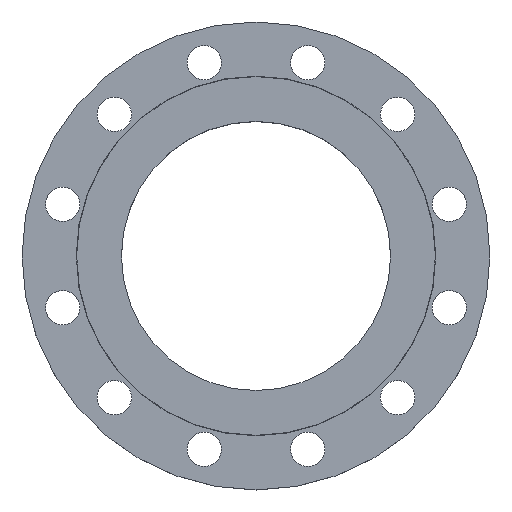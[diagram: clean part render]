
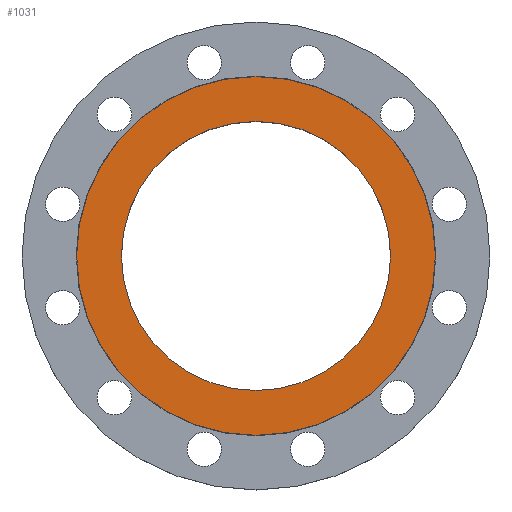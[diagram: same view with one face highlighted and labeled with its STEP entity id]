
A CAD part, top view. The second image highlights one B-rep face of the part: STEP entity #1031.
In plain terms, the highlighted planar face has unit normal (0, 0, 1).
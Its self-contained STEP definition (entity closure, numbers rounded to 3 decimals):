
#73 = CARTESIAN_POINT ( 'NONE',  ( 172.5, 0., 0. ) ) ;
#91 = CARTESIAN_POINT ( 'NONE',  ( -172.5, 0., 0. ) ) ;
#255 = DIRECTION ( 'NONE',  ( 0., 0., -1. ) ) ;
#257 = CARTESIAN_POINT ( 'NONE',  ( 0., 0., 0. ) ) ;
#279 = CIRCLE ( 'NONE', #306, 129.4 ) ;
#282 = CIRCLE ( 'NONE', #298, 172.5 ) ;
#298 = AXIS2_PLACEMENT_3D ( 'NONE', #535, #533, #530 ) ;
#306 = AXIS2_PLACEMENT_3D ( 'NONE', #361, #360, #359 ) ;
#359 = DIRECTION ( 'NONE',  ( -1., 0., 0. ) ) ;
#360 = DIRECTION ( 'NONE',  ( 0., 0., -1. ) ) ;
#361 = CARTESIAN_POINT ( 'NONE',  ( 0., 0., 0. ) ) ;
#416 = DIRECTION ( 'NONE',  ( 1., 0., 0. ) ) ;
#418 = DIRECTION ( 'NONE',  ( 0., 0., 1. ) ) ;
#419 = CARTESIAN_POINT ( 'NONE',  ( 0., 0., 0. ) ) ;
#420 = PLANE ( 'NONE',  #1182 ) ;
#421 = FACE_OUTER_BOUND ( 'NONE', #1383, .T. ) ;
#422 = FACE_BOUND ( 'NONE', #1225, .T. ) ;
#476 = DIRECTION ( 'NONE',  ( -1., 0., 0. ) ) ;
#518 = CARTESIAN_POINT ( 'NONE',  ( 129.4, 0., 0. ) ) ;
#523 = CARTESIAN_POINT ( 'NONE',  ( -129.4, 0., 0. ) ) ;
#530 = DIRECTION ( 'NONE',  ( -1., 0., 0. ) ) ;
#533 = DIRECTION ( 'NONE',  ( 0., 0., -1. ) ) ;
#535 = CARTESIAN_POINT ( 'NONE',  ( 0., 0., 0. ) ) ;
#547 = DIRECTION ( 'NONE',  ( -1., 0., 0. ) ) ;
#548 = DIRECTION ( 'NONE',  ( 0., 0., -1. ) ) ;
#549 = CARTESIAN_POINT ( 'NONE',  ( 0., 0., 0. ) ) ;
#579 = CIRCLE ( 'NONE', #658, 129.4 ) ;
#658 = AXIS2_PLACEMENT_3D ( 'NONE', #549, #548, #547 ) ;
#749 = CIRCLE ( 'NONE', #751, 172.5 ) ;
#751 = AXIS2_PLACEMENT_3D ( 'NONE', #257, #255, #476 ) ;
#870 = EDGE_CURVE ( 'NONE', #923, #937, #579, .T. ) ;
#892 = EDGE_CURVE ( 'NONE', #1379, #1357, #282, .T. ) ;
#923 = VERTEX_POINT ( 'NONE', #523 ) ;
#937 = VERTEX_POINT ( 'NONE', #518 ) ;
#980 = EDGE_CURVE ( 'NONE', #1357, #1379, #749, .T. ) ;
#1031 = ADVANCED_FACE ( 'NONE', ( #422, #421 ), #420, .T. ) ;
#1071 = EDGE_CURVE ( 'NONE', #937, #923, #279, .T. ) ;
#1182 = AXIS2_PLACEMENT_3D ( 'NONE', #419, #418, #416 ) ;
#1191 = ORIENTED_EDGE ( 'NONE', *, *, #870, .T. ) ;
#1193 = ORIENTED_EDGE ( 'NONE', *, *, #1071, .T. ) ;
#1199 = ORIENTED_EDGE ( 'NONE', *, *, #980, .F. ) ;
#1200 = ORIENTED_EDGE ( 'NONE', *, *, #892, .F. ) ;
#1225 = EDGE_LOOP ( 'NONE', ( #1191, #1193 ) ) ;
#1357 = VERTEX_POINT ( 'NONE', #91 ) ;
#1379 = VERTEX_POINT ( 'NONE', #73 ) ;
#1383 = EDGE_LOOP ( 'NONE', ( #1199, #1200 ) ) ;
